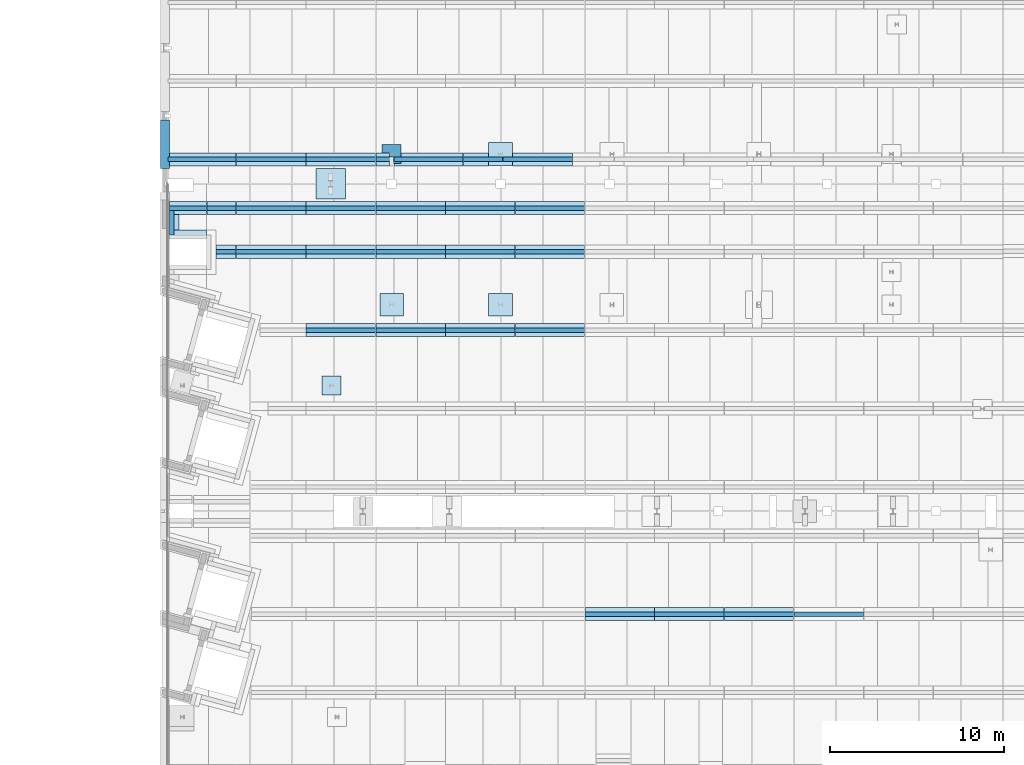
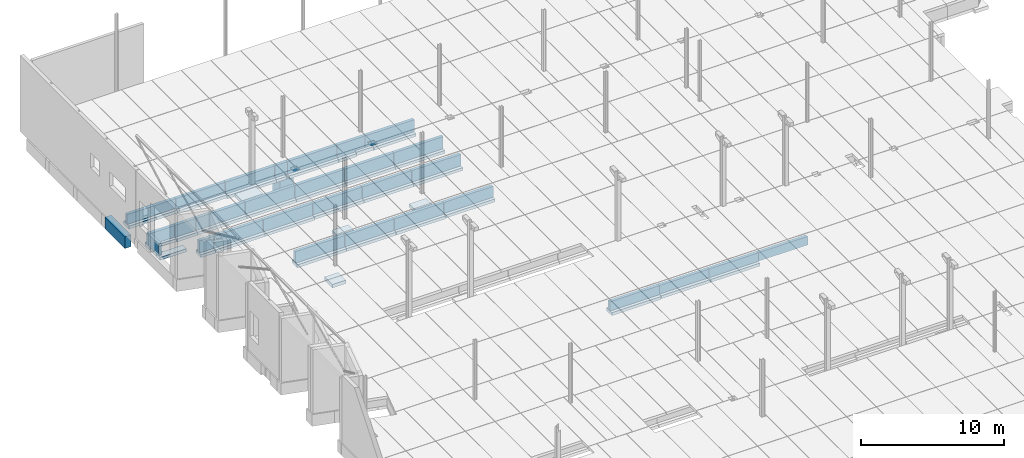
# One storey, part 7 of 59: 65 footings.
"""IFC2X3 building model written with IfcOpenShell, lengths in metres."""

from ifc_helpers import new_model, entity, si_unit, converted_unit, derived_unit, frame, frame_2d, origin, origin_with_axes, place, context, subcontext, project, spatial, polyline, rectangle, extrude, clip, bounded_halfspace, material, element, save


model = new_model("IFC2X3")

# Units and contexts
model_context = context("Model", 3, precision=1e-05, world=origin())
body_context = subcontext(model_context, "Body", "Model", "MODEL_VIEW")
ifc_project = project(units=[si_unit("LENGTHUNIT", "METRE"), si_unit("AREAUNIT", "SQUARE_METRE"), si_unit("VOLUMEUNIT", "CUBIC_METRE"), si_unit("MASSUNIT", "GRAM", prefix="KILO"), converted_unit("PLANEANGLEUNIT", "DEGREE", entity("IfcPlaneAngleMeasure", 0.0174532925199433), si_unit("PLANEANGLEUNIT", "RADIAN"), dimensions=[0, 0, 0, 0, 0, 0, 0]), derived_unit("THERMALTRANSMITTANCEUNIT", [(si_unit("POWERUNIT", "WATT"), 1), (si_unit("THERMODYNAMICTEMPERATUREUNIT", "KELVIN"), -1), (si_unit("LENGTHUNIT", "METRE"), -2)]), derived_unit("VOLUMETRICFLOWRATEUNIT", [(si_unit("LENGTHUNIT", "METRE"), 3), (converted_unit("TIMEUNIT", "hour", entity("IfcTimeMeasure", 3600.0), si_unit("TIMEUNIT", "SECOND"), dimensions=[0, 0, 1, 0, 0, 0, 0]), -1), (si_unit("LENGTHUNIT", "METRE"), -1)])], contexts=[model_context])

# Site, building, storey
site_placement = place(None, origin())
site = spatial("IfcSite", under=ifc_project, at=site_placement, Name="TWP_Speiseverteilzentrum SBW VZ II", CompositionType="ELEMENT")
building_placement = place(site_placement, origin())
building = spatial("IfcBuilding", under=site, at=building_placement, Name="Speiseverteilzentrum SBW VZ II", CompositionType="ELEMENT")
storey_placement = place(building_placement, frame((0.0, 0.0, 1.7307)))
storey = spatial("IfcBuildingStorey", under=building, at=storey_placement, Name="EG_Produktion_FFB", CompositionType="ELEMENT", Elevation=1.7307)

# Footings
ifc_material_1 = material(Name="Stahlbeton")
footing_1_placement = place(storey_placement, frame((18.4999999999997, 58.2629058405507, -1.7)))
element("IfcFooting", 1, at=footing_1_placement, inside=storey, material=ifc_material_1, Name="Stb.-Einzelfundament", ObjectType="COLUMN_FOUNDATION", PredefinedType="USERDEFINED", context=body_context, shape_type="SweptSolid", body=[
    extrude(rectangle(XDim=1.1, YDim=1.1, at=frame_2d((0.55, 0.55), x_axis=(1.0, 0.0))), origin_with_axes(), (0.0, 0.0, 1.0), 0.3),
])
ifc_material_2 = material(Name="Stahlbeton")
footing_2_placement = place(storey_placement, frame((28.075, 62.8074932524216, -1.7)))
element("IfcFooting", 2, at=footing_2_placement, inside=storey, material=ifc_material_2, Name="Stb.-Einzelfundament", ObjectType="COLUMN_FOUNDATION", PredefinedType="USERDEFINED", context=body_context, shape_type="SweptSolid", body=[
    extrude(rectangle(XDim=1.35, YDim=1.3, at=frame_2d((0.675, 0.65), x_axis=(1.0, 0.0))), origin_with_axes(), (0.0, 0.0, 1.0), 0.3),
])
ifc_material_3 = material(Name="Stahlbeton")
footing_3_placement = place(storey_placement, frame((21.825, 62.8074932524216, -1.75)))
element("IfcFooting", 3, at=footing_3_placement, inside=storey, material=ifc_material_3, Name="Stb.-Einzelfundament", ObjectType="COLUMN_FOUNDATION", PredefinedType="USERDEFINED", context=body_context, shape_type="SweptSolid", body=[
    extrude(rectangle(XDim=1.35, YDim=1.3, at=frame_2d((0.675, 0.65), x_axis=(1.0, 0.0))), origin_with_axes(), (0.0, 0.0, 1.0), 0.3),
])
ifc_material_4 = material(Name="Stahlbeton")
footing_4_placement = place(storey_placement, frame((18.1499999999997, 69.5251031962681, -1.7)))
element("IfcFooting", 4, at=footing_4_placement, inside=storey, material=ifc_material_4, Name="Stb.-Einzelfundament", ObjectType="COLUMN_FOUNDATION", PredefinedType="USERDEFINED", context=body_context, shape_type="SweptSolid", body=[
    extrude(rectangle(XDim=1.7, YDim=1.75, at=frame_2d((0.85, 0.875), x_axis=(1.0, 0.0))), origin_with_axes(), (0.0, 0.0, 1.0), 0.3),
])
ifc_material_5 = material(Name="Stahlbeton")
footing_5_placement = place(storey_placement, frame((21.95325, 71.5595015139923, -3.62)))
element("IfcFooting", 5, at=footing_5_placement, inside=storey, material=ifc_material_5, Name="Stb.-Einzelfundament", ObjectType="COLUMN_FOUNDATION", PredefinedType="USERDEFINED", context=body_context, shape_type="SweptSolid", body=[
    extrude(rectangle(XDim=1.1, YDim=1.1, at=frame_2d((0.55, 0.55), x_axis=(1.0, 0.0))), origin_with_axes(), (0.0, 0.0, 1.0), 1.8),
])
ifc_material_6 = material(Name="Stahlbeton")
footing_6_placement = place(storey_placement, frame((28.075, 71.4595015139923, -1.75)))
element("IfcFooting", 6, at=footing_6_placement, inside=storey, material=ifc_material_6, Name="Stb.-Einzelfundament", ObjectType="COLUMN_FOUNDATION", PredefinedType="USERDEFINED", context=body_context, shape_type="Clipping", body=[
    clip(clip(extrude(rectangle(XDim=1.35, YDim=1.3, at=frame_2d((0.675, 0.65), x_axis=(1.0, 0.0))), origin_with_axes(), (0.0, 0.0, 1.0), 0.3), bounded_halfspace(frame((1.08175, 0.340911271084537, 0.25), z_axis=(0.0, 0.0, -1.0), x_axis=(0.0, -1.0, 0.0)), True, origin_with_axes(), polyline([(0.8135, 0.465911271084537), (0.8135, 0.215911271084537), (1.35, 0.215911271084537), (1.35, 0.465911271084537), (0.8135, 0.465911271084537)]))), bounded_halfspace(frame((0.39675, 0.340911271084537, 0.2), z_axis=(0.0, 0.0, -1.0), x_axis=(0.0, -1.0, 0.0)), True, origin_with_axes(), polyline([(0.0, 0.465911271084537), (0.0, 0.215911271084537), (0.793499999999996, 0.215911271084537), (0.793499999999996, 0.465911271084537), (0.0, 0.465911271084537)]))),
])
ifc_material_7 = material(Name="Stahlbeton")
footing_7_placement = place(storey_placement, frame((9.73999999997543, 71.2627373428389, -2.9677), z_axis=(0.0, 0.0, 1.0), x_axis=(0.0, 1.0, 0.0)))
element("IfcFooting", 7, at=footing_7_placement, inside=storey, material=ifc_material_7, Name="Stb.-Streifenfundament", PredefinedType="STRIP_FOOTING", context=body_context, shape_type="SweptSolid", body=[
    extrude(rectangle(XDim=0.5, YDim=1.0, at=frame_2d((0.25, 0.5), x_axis=(1.0, 0.0))), frame((0.0, 0.0, 0.0), z_axis=(1.0, 0.0, 0.0), x_axis=(0.0, 1.0, 0.0)), (0.0, 0.0, 1.0), 2.79129504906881),
])
ifc_material_8 = material(Name="Stahlbetonfertigteil")
footing_8_placement = place(storey_placement, frame((33.5999999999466, 45.5750000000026, -1.25)))
element("IfcFooting", 8, at=footing_8_placement, inside=storey, material=ifc_material_8, Name="Stahlbetonfertigteilfundament", PredefinedType="STRIP_FOOTING", context=body_context, shape_type="SweptSolid", body=[
    extrude(rectangle(XDim=0.25, YDim=0.78, at=frame_2d((0.125, 0.39), x_axis=(1.0, 0.0))), frame((0.0, 0.0, 0.0), z_axis=(1.0, 0.0, 0.0), x_axis=(0.0, 1.0, 0.0)), (0.0, 0.0, 1.0), 3.98),
])
ifc_material_9 = material(Name="Stahlbetonfertigteil")
footing_9_placement = place(storey_placement, frame((33.5999999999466, 45.3250000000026, -1.5)))
element("IfcFooting", 9, at=footing_9_placement, inside=storey, material=ifc_material_9, Name="Stahlbetonfertigteilfundament", PredefinedType="STRIP_FOOTING", context=body_context, shape_type="SweptSolid", body=[
    extrude(rectangle(XDim=0.75, YDim=0.25, at=frame_2d((0.375, 0.125), x_axis=(1.0, 0.0))), frame((0.0, 0.0, 0.0), z_axis=(1.0, 0.0, 0.0), x_axis=(0.0, 1.0, 0.0)), (0.0, 0.0, 1.0), 3.98),
])
ifc_material_10 = material(Name="Stahlbetonfertigteil")
footing_10_placement = place(storey_placement, frame((37.5999999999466, 45.5750000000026, -1.2)))
element("IfcFooting", 10, at=footing_10_placement, inside=storey, material=ifc_material_10, Name="Stahlbetonfertigteilfundament", PredefinedType="STRIP_FOOTING", context=body_context, shape_type="SweptSolid", body=[
    extrude(rectangle(XDim=0.25, YDim=0.73, at=frame_2d((0.125, 0.365), x_axis=(1.0, 0.0))), frame((0.0, 0.0, 0.0), z_axis=(1.0, 0.0, 0.0), x_axis=(0.0, 1.0, 0.0)), (0.0, 0.0, 1.0), 3.98),
])
ifc_material_11 = material(Name="Stahlbetonfertigteil")
footing_11_placement = place(storey_placement, frame((37.5999999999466, 45.3250000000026, -1.45)))
element("IfcFooting", 11, at=footing_11_placement, inside=storey, material=ifc_material_11, Name="Stahlbetonfertigteilfundament", PredefinedType="STRIP_FOOTING", context=body_context, shape_type="SweptSolid", body=[
    extrude(rectangle(XDim=0.75, YDim=0.25, at=frame_2d((0.375, 0.125), x_axis=(1.0, 0.0))), frame((0.0, 0.0, 0.0), z_axis=(1.0, 0.0, 0.0), x_axis=(0.0, 1.0, 0.0)), (0.0, 0.0, 1.0), 3.98),
])
ifc_material_12 = material(Name="Stahlbetonfertigteil")
footing_12_placement = place(storey_placement, frame((21.5999999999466, 61.8750000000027, -1.45)))
element("IfcFooting", 12, at=footing_12_placement, inside=storey, material=ifc_material_12, Name="Stahlbetonfertigteilfundament", PredefinedType="STRIP_FOOTING", context=body_context, shape_type="SweptSolid", body=[
    extrude(rectangle(XDim=0.25, YDim=0.98, at=frame_2d((0.125, 0.49), x_axis=(1.0, 0.0))), frame((0.0, 0.0, 0.0), z_axis=(1.0, 0.0, 0.0), x_axis=(0.0, 1.0, 0.0)), (0.0, 0.0, 1.0), 3.98),
])
ifc_material_13 = material(Name="Stahlbetonfertigteil")
footing_13_placement = place(storey_placement, frame((25.5999999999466, 61.8750000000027, -1.45)))
element("IfcFooting", 13, at=footing_13_placement, inside=storey, material=ifc_material_13, Name="Stahlbetonfertigteilfundament", PredefinedType="STRIP_FOOTING", context=body_context, shape_type="SweptSolid", body=[
    extrude(rectangle(XDim=0.25, YDim=0.98, at=frame_2d((0.125, 0.49), x_axis=(1.0, 0.0))), frame((0.0, 0.0, 0.0), z_axis=(1.0, 0.0, 0.0), x_axis=(0.0, 1.0, 0.0)), (0.0, 0.0, 1.0), 3.98),
])
ifc_material_14 = material(Name="Stahlbetonfertigteil")
footing_14_placement = place(storey_placement, frame((25.5999999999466, 61.6250000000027, -1.7)))
element("IfcFooting", 14, at=footing_14_placement, inside=storey, material=ifc_material_14, Name="Stahlbetonfertigteilfundament", PredefinedType="STRIP_FOOTING", context=body_context, shape_type="SweptSolid", body=[
    extrude(rectangle(XDim=0.75, YDim=0.25, at=frame_2d((0.375, 0.125), x_axis=(1.0, 0.0))), frame((0.0, 0.0, 0.0), z_axis=(1.0, 0.0, 0.0), x_axis=(0.0, 1.0, 0.0)), (0.0, 0.0, 1.0), 3.98),
])
ifc_material_15 = material(Name="Stahlbetonfertigteil")
footing_15_placement = place(storey_placement, frame((21.5999999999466, 61.6250000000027, -1.7)))
element("IfcFooting", 15, at=footing_15_placement, inside=storey, material=ifc_material_15, Name="Stahlbetonfertigteilfundament", PredefinedType="STRIP_FOOTING", context=body_context, shape_type="SweptSolid", body=[
    extrude(rectangle(XDim=0.75, YDim=0.25, at=frame_2d((0.375, 0.125), x_axis=(1.0, 0.0))), frame((0.0, 0.0, 0.0), z_axis=(1.0, 0.0, 0.0), x_axis=(0.0, 1.0, 0.0)), (0.0, 0.0, 1.0), 3.98),
])
ifc_material_16 = material(Name="Stahlbetonfertigteil")
footing_16_placement = place(storey_placement, frame((29.5999999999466, 61.8750000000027, -1.4)))
element("IfcFooting", 16, at=footing_16_placement, inside=storey, material=ifc_material_16, Name="Stahlbetonfertigteilfundament", PredefinedType="STRIP_FOOTING", context=body_context, shape_type="SweptSolid", body=[
    extrude(rectangle(XDim=0.25, YDim=0.93, at=frame_2d((0.125, 0.465), x_axis=(1.0, 0.0))), frame((0.0, 0.0, 0.0), z_axis=(1.0, 0.0, 0.0), x_axis=(0.0, 1.0, 0.0)), (0.0, 0.0, 1.0), 3.98),
])
ifc_material_17 = material(Name="Stahlbetonfertigteil")
footing_17_placement = place(storey_placement, frame((29.5999999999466, 61.6250000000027, -1.65)))
element("IfcFooting", 17, at=footing_17_placement, inside=storey, material=ifc_material_17, Name="Stahlbetonfertigteilfundament", PredefinedType="STRIP_FOOTING", context=body_context, shape_type="SweptSolid", body=[
    extrude(rectangle(XDim=0.75, YDim=0.25, at=frame_2d((0.375, 0.125), x_axis=(1.0, 0.0))), frame((0.0, 0.0, 0.0), z_axis=(1.0, 0.0, 0.0), x_axis=(0.0, 1.0, 0.0)), (0.0, 0.0, 1.0), 3.98),
])
ifc_material_18 = material(Name="Stahlbetonfertigteil")
footing_18_placement = place(storey_placement, frame((29.5999999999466, 66.3752063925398, -1.45)))
element("IfcFooting", 18, at=footing_18_placement, inside=storey, material=ifc_material_18, Name="Stahlbetonfertigteilfundament", PredefinedType="STRIP_FOOTING", context=body_context, shape_type="SweptSolid", body=[
    extrude(rectangle(XDim=0.25, YDim=0.98, at=frame_2d((0.125, 0.49), x_axis=(1.0, 0.0))), frame((0.0, 0.0, 0.0), z_axis=(1.0, 0.0, 0.0), x_axis=(0.0, 1.0, 0.0)), (0.0, 0.0, 1.0), 3.98),
])
ifc_material_19 = material(Name="Stahlbetonfertigteil")
footing_19_placement = place(storey_placement, frame((29.5999999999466, 66.1252063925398, -1.7)))
element("IfcFooting", 19, at=footing_19_placement, inside=storey, material=ifc_material_19, Name="Stahlbetonfertigteilfundament", PredefinedType="STRIP_FOOTING", context=body_context, shape_type="SweptSolid", body=[
    extrude(rectangle(XDim=0.75, YDim=0.25, at=frame_2d((0.375, 0.125), x_axis=(1.0, 0.0))), frame((0.0, 0.0, 0.0), z_axis=(1.0, 0.0, 0.0), x_axis=(0.0, 1.0, 0.0)), (0.0, 0.0, 1.0), 3.98),
])
ifc_material_20 = material(Name="Stahlbetonfertigteil")
footing_20_placement = place(storey_placement, frame((21.5999999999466, 66.3752063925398, -1.45)))
element("IfcFooting", 20, at=footing_20_placement, inside=storey, material=ifc_material_20, Name="Stahlbetonfertigteilfundament", PredefinedType="STRIP_FOOTING", context=body_context, shape_type="SweptSolid", body=[
    extrude(rectangle(XDim=0.25, YDim=0.98, at=frame_2d((0.125, 0.49), x_axis=(1.0, 0.0))), frame((0.0, 0.0, 0.0), z_axis=(1.0, 0.0, 0.0), x_axis=(0.0, 1.0, 0.0)), (0.0, 0.0, 1.0), 3.98),
])
ifc_material_21 = material(Name="Stahlbetonfertigteil")
footing_21_placement = place(storey_placement, frame((25.5999999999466, 66.3752063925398, -1.45)))
element("IfcFooting", 21, at=footing_21_placement, inside=storey, material=ifc_material_21, Name="Stahlbetonfertigteilfundament", PredefinedType="STRIP_FOOTING", context=body_context, shape_type="SweptSolid", body=[
    extrude(rectangle(XDim=0.25, YDim=0.98, at=frame_2d((0.125, 0.49), x_axis=(1.0, 0.0))), frame((0.0, 0.0, 0.0), z_axis=(1.0, 0.0, 0.0), x_axis=(0.0, 1.0, 0.0)), (0.0, 0.0, 1.0), 3.98),
])
ifc_material_22 = material(Name="Stahlbetonfertigteil")
footing_22_placement = place(storey_placement, frame((21.5999999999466, 66.1252063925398, -1.7)))
element("IfcFooting", 22, at=footing_22_placement, inside=storey, material=ifc_material_22, Name="Stahlbetonfertigteilfundament", PredefinedType="STRIP_FOOTING", context=body_context, shape_type="SweptSolid", body=[
    extrude(rectangle(XDim=0.75, YDim=0.25, at=frame_2d((0.375, 0.125), x_axis=(1.0, 0.0))), frame((0.0, 0.0, 0.0), z_axis=(1.0, 0.0, 0.0), x_axis=(0.0, 1.0, 0.0)), (0.0, 0.0, 1.0), 3.98),
])
ifc_material_23 = material(Name="Stahlbetonfertigteil")
footing_23_placement = place(storey_placement, frame((25.5999999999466, 66.1252063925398, -1.7)))
element("IfcFooting", 23, at=footing_23_placement, inside=storey, material=ifc_material_23, Name="Stahlbetonfertigteilfundament", PredefinedType="STRIP_FOOTING", context=body_context, shape_type="SweptSolid", body=[
    extrude(rectangle(XDim=0.75, YDim=0.25, at=frame_2d((0.375, 0.125), x_axis=(1.0, 0.0))), frame((0.0, 0.0, 0.0), z_axis=(1.0, 0.0, 0.0), x_axis=(0.0, 1.0, 0.0)), (0.0, 0.0, 1.0), 3.98),
])
ifc_material_24 = material(Name="Stahlbetonfertigteil")
footing_24_placement = place(storey_placement, frame((13.5999999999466, 71.6754127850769, -1.4)))
element("IfcFooting", 24, at=footing_24_placement, inside=storey, material=ifc_material_24, Name="Stahlbetonfertigteilfundament", PredefinedType="STRIP_FOOTING", context=body_context, shape_type="SweptSolid", body=[
    extrude(rectangle(XDim=0.25, YDim=0.93, at=frame_2d((0.125, 0.465), x_axis=(1.0, 0.0))), frame((0.0, 0.0, 0.0), z_axis=(1.0, 0.0, 0.0), x_axis=(0.0, 1.0, 0.0)), (0.0, 0.0, 1.0), 3.98),
])
ifc_material_25 = material(Name="Stahlbetonfertigteil")
footing_25_placement = place(storey_placement, frame((13.5999999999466, 71.4254127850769, -1.65)))
element("IfcFooting", 25, at=footing_25_placement, inside=storey, material=ifc_material_25, Name="Stahlbetonfertigteilfundament", PredefinedType="STRIP_FOOTING", context=body_context, shape_type="SweptSolid", body=[
    extrude(rectangle(XDim=0.75, YDim=0.25, at=frame_2d((0.375, 0.125), x_axis=(1.0, 0.0))), frame((0.0, 0.0, 0.0), z_axis=(1.0, 0.0, 0.0), x_axis=(0.0, 1.0, 0.0)), (0.0, 0.0, 1.0), 3.98),
])
ifc_material_26 = material(Name="Stahlbetonfertigteil")
footing_26_placement = place(storey_placement, frame((17.5999999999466, 71.6754127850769, -1.5)))
element("IfcFooting", 26, at=footing_26_placement, inside=storey, material=ifc_material_26, Name="Stahlbetonfertigteilfundament", PredefinedType="STRIP_FOOTING", context=body_context, shape_type="SweptSolid", body=[
    extrude(rectangle(XDim=0.25, YDim=1.03, at=frame_2d((0.125, 0.515), x_axis=(1.0, 0.0))), frame((0.0, 0.0, 0.0), z_axis=(1.0, 0.0, 0.0), x_axis=(0.0, 1.0, 0.0)), (0.0, 0.0, 1.0), 3.98),
])
ifc_material_27 = material(Name="Stahlbetonfertigteil")
footing_27_placement = place(storey_placement, frame((17.5999999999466, 71.4254127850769, -1.75)))
element("IfcFooting", 27, at=footing_27_placement, inside=storey, material=ifc_material_27, Name="Stahlbetonfertigteilfundament", PredefinedType="STRIP_FOOTING", context=body_context, shape_type="SweptSolid", body=[
    extrude(rectangle(XDim=0.75, YDim=0.25, at=frame_2d((0.375, 0.125), x_axis=(1.0, 0.0))), frame((0.0, 0.0, 0.0), z_axis=(1.0, 0.0, 0.0), x_axis=(0.0, 1.0, 0.0)), (0.0, 0.0, 1.0), 3.98),
])
ifc_material_28 = material(Name="Stahlbetonfertigteil")
footing_28_placement = place(storey_placement, frame((13.5999999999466, 66.3752063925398, -1.5)))
element("IfcFooting", 28, at=footing_28_placement, inside=storey, material=ifc_material_28, Name="Stahlbetonfertigteilfundament", PredefinedType="STRIP_FOOTING", context=body_context, shape_type="SweptSolid", body=[
    extrude(rectangle(XDim=0.25, YDim=1.03, at=frame_2d((0.125, 0.515), x_axis=(1.0, 0.0))), frame((0.0, 0.0, 0.0), z_axis=(1.0, 0.0, 0.0), x_axis=(0.0, 1.0, 0.0)), (0.0, 0.0, 1.0), 3.98),
])
ifc_material_29 = material(Name="Stahlbetonfertigteil")
footing_29_placement = place(storey_placement, frame((13.5999999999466, 66.1252063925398, -1.75)))
element("IfcFooting", 29, at=footing_29_placement, inside=storey, material=ifc_material_29, Name="Stahlbetonfertigteilfundament", PredefinedType="STRIP_FOOTING", context=body_context, shape_type="SweptSolid", body=[
    extrude(rectangle(XDim=0.75, YDim=0.25, at=frame_2d((0.375, 0.125), x_axis=(1.0, 0.0))), frame((0.0, 0.0, 0.0), z_axis=(1.0, 0.0, 0.0), x_axis=(0.0, 1.0, 0.0)), (0.0, 0.0, 1.0), 3.98),
])
ifc_material_30 = material(Name="Stahlbetonfertigteil")
footing_30_placement = place(storey_placement, frame((25.5999999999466, 68.8754127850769, -1.5)))
element("IfcFooting", 30, at=footing_30_placement, inside=storey, material=ifc_material_30, Name="Stahlbetonfertigteilfundament", PredefinedType="STRIP_FOOTING", context=body_context, shape_type="SweptSolid", body=[
    extrude(rectangle(XDim=0.25, YDim=1.03, at=frame_2d((0.125, 0.515), x_axis=(1.0, 0.0))), frame((0.0, 0.0, 0.0), z_axis=(1.0, 0.0, 0.0), x_axis=(0.0, 1.0, 0.0)), (0.0, 0.0, 1.0), 3.98),
])
ifc_material_31 = material(Name="Stahlbetonfertigteil")
footing_31_placement = place(storey_placement, frame((29.5999999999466, 68.8754127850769, -1.5)))
element("IfcFooting", 31, at=footing_31_placement, inside=storey, material=ifc_material_31, Name="Stahlbetonfertigteilfundament", PredefinedType="STRIP_FOOTING", context=body_context, shape_type="SweptSolid", body=[
    extrude(rectangle(XDim=0.25, YDim=1.03, at=frame_2d((0.125, 0.515), x_axis=(1.0, 0.0))), frame((0.0, 0.0, 0.0), z_axis=(1.0, 0.0, 0.0), x_axis=(0.0, 1.0, 0.0)), (0.0, 0.0, 1.0), 3.98),
])
ifc_material_32 = material(Name="Stahlbetonfertigteil")
footing_32_placement = place(storey_placement, frame((29.5999999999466, 68.6254127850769, -1.75)))
element("IfcFooting", 32, at=footing_32_placement, inside=storey, material=ifc_material_32, Name="Stahlbetonfertigteilfundament", PredefinedType="STRIP_FOOTING", context=body_context, shape_type="SweptSolid", body=[
    extrude(rectangle(XDim=0.75, YDim=0.25, at=frame_2d((0.375, 0.125), x_axis=(1.0, 0.0))), frame((0.0, 0.0, 0.0), z_axis=(1.0, 0.0, 0.0), x_axis=(0.0, 1.0, 0.0)), (0.0, 0.0, 1.0), 3.98),
])
ifc_material_33 = material(Name="Stahlbetonfertigteil")
footing_33_placement = place(storey_placement, frame((25.5999999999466, 68.6254127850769, -1.75)))
element("IfcFooting", 33, at=footing_33_placement, inside=storey, material=ifc_material_33, Name="Stahlbetonfertigteilfundament", PredefinedType="STRIP_FOOTING", context=body_context, shape_type="SweptSolid", body=[
    extrude(rectangle(XDim=0.75, YDim=0.25, at=frame_2d((0.375, 0.125), x_axis=(1.0, 0.0))), frame((0.0, 0.0, 0.0), z_axis=(1.0, 0.0, 0.0), x_axis=(0.0, 1.0, 0.0)), (0.0, 0.0, 1.0), 3.98),
])
ifc_material_34 = material(Name="Stahlbetonfertigteil")
footing_34_placement = place(storey_placement, frame((21.5999999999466, 68.8754127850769, -1.5)))
element("IfcFooting", 34, at=footing_34_placement, inside=storey, material=ifc_material_34, Name="Stahlbetonfertigteilfundament", PredefinedType="STRIP_FOOTING", context=body_context, shape_type="SweptSolid", body=[
    extrude(rectangle(XDim=0.25, YDim=1.03, at=frame_2d((0.125, 0.515), x_axis=(1.0, 0.0))), frame((0.0, 0.0, 0.0), z_axis=(1.0, 0.0, 0.0), x_axis=(0.0, 1.0, 0.0)), (0.0, 0.0, 1.0), 3.98),
])
ifc_material_35 = material(Name="Stahlbetonfertigteil")
footing_35_placement = place(storey_placement, frame((21.5999999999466, 68.6254127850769, -1.75)))
element("IfcFooting", 35, at=footing_35_placement, inside=storey, material=ifc_material_35, Name="Stahlbetonfertigteilfundament", PredefinedType="STRIP_FOOTING", context=body_context, shape_type="SweptSolid", body=[
    extrude(rectangle(XDim=0.75, YDim=0.25, at=frame_2d((0.375, 0.125), x_axis=(1.0, 0.0))), frame((0.0, 0.0, 0.0), z_axis=(1.0, 0.0, 0.0), x_axis=(0.0, 1.0, 0.0)), (0.0, 0.0, 1.0), 3.98),
])
ifc_material_36 = material(Name="Stahlbetonfertigteil")
footing_36_placement = place(storey_placement, frame((13.5999999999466, 68.8754127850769, -1.5)))
element("IfcFooting", 36, at=footing_36_placement, inside=storey, material=ifc_material_36, Name="Stahlbetonfertigteilfundament", PredefinedType="STRIP_FOOTING", context=body_context, shape_type="SweptSolid", body=[
    extrude(rectangle(XDim=0.25, YDim=1.03, at=frame_2d((0.125, 0.515), x_axis=(1.0, 0.0))), frame((0.0, 0.0, 0.0), z_axis=(1.0, 0.0, 0.0), x_axis=(0.0, 1.0, 0.0)), (0.0, 0.0, 1.0), 3.98),
])
ifc_material_37 = material(Name="Stahlbetonfertigteil")
footing_37_placement = place(storey_placement, frame((17.5999999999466, 68.8754127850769, -1.5)))
element("IfcFooting", 37, at=footing_37_placement, inside=storey, material=ifc_material_37, Name="Stahlbetonfertigteilfundament", PredefinedType="STRIP_FOOTING", context=body_context, shape_type="SweptSolid", body=[
    extrude(rectangle(XDim=0.25, YDim=1.03, at=frame_2d((0.125, 0.515), x_axis=(1.0, 0.0))), frame((0.0, 0.0, 0.0), z_axis=(1.0, 0.0, 0.0), x_axis=(0.0, 1.0, 0.0)), (0.0, 0.0, 1.0), 3.98),
])
ifc_material_38 = material(Name="Stahlbetonfertigteil")
footing_38_placement = place(storey_placement, frame((17.5999999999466, 68.6254127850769, -1.75)))
element("IfcFooting", 38, at=footing_38_placement, inside=storey, material=ifc_material_38, Name="Stahlbetonfertigteilfundament", PredefinedType="STRIP_FOOTING", context=body_context, shape_type="SweptSolid", body=[
    extrude(rectangle(XDim=0.75, YDim=0.25, at=frame_2d((0.375, 0.125), x_axis=(1.0, 0.0))), frame((0.0, 0.0, 0.0), z_axis=(1.0, 0.0, 0.0), x_axis=(0.0, 1.0, 0.0)), (0.0, 0.0, 1.0), 3.98),
])
ifc_material_39 = material(Name="Stahlbetonfertigteil")
footing_39_placement = place(storey_placement, frame((13.5999999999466, 68.6254127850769, -1.75)))
element("IfcFooting", 39, at=footing_39_placement, inside=storey, material=ifc_material_39, Name="Stahlbetonfertigteilfundament", PredefinedType="STRIP_FOOTING", context=body_context, shape_type="SweptSolid", body=[
    extrude(rectangle(XDim=0.75, YDim=0.25, at=frame_2d((0.375, 0.125), x_axis=(1.0, 0.0))), frame((0.0, 0.0, 0.0), z_axis=(1.0, 0.0, 0.0), x_axis=(0.0, 1.0, 0.0)), (0.0, 0.0, 1.0), 3.98),
])
ifc_material_40 = material(Name="Stahlbetonfertigteil")
footing_40_placement = place(storey_placement, frame((17.5999999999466, 66.1252063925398, -1.75)))
element("IfcFooting", 40, at=footing_40_placement, inside=storey, material=ifc_material_40, Name="Stahlbetonfertigteilfundament", PredefinedType="STRIP_FOOTING", context=body_context, shape_type="SweptSolid", body=[
    extrude(rectangle(XDim=0.75, YDim=0.25, at=frame_2d((0.375, 0.125), x_axis=(1.0, 0.0))), frame((0.0, 0.0, 0.0), z_axis=(1.0, 0.0, 0.0), x_axis=(0.0, 1.0, 0.0)), (0.0, 0.0, 1.0), 3.98),
])
ifc_material_41 = material(Name="Stahlbetonfertigteil")
footing_41_placement = place(storey_placement, frame((17.5999999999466, 66.3752063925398, -1.5)))
element("IfcFooting", 41, at=footing_41_placement, inside=storey, material=ifc_material_41, Name="Stahlbetonfertigteilfundament", PredefinedType="STRIP_FOOTING", context=body_context, shape_type="SweptSolid", body=[
    extrude(rectangle(XDim=0.25, YDim=1.03, at=frame_2d((0.125, 0.515), x_axis=(1.0, 0.0))), frame((0.0, 0.0, 0.0), z_axis=(1.0, 0.0, 0.0), x_axis=(0.0, 1.0, 0.0)), (0.0, 0.0, 1.0), 3.98),
])
ifc_material_42 = material(Name="Stahlbetonfertigteil")
footing_42_placement = place(storey_placement, frame((17.5999999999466, 61.6250000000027, -1.7)))
element("IfcFooting", 42, at=footing_42_placement, inside=storey, material=ifc_material_42, Name="Stahlbetonfertigteilfundament", PredefinedType="STRIP_FOOTING", context=body_context, shape_type="SweptSolid", body=[
    extrude(rectangle(XDim=0.75, YDim=0.25, at=frame_2d((0.375, 0.125), x_axis=(1.0, 0.0))), frame((0.0, 0.0, 0.0), z_axis=(1.0, 0.0, 0.0), x_axis=(0.0, 1.0, 0.0)), (0.0, 0.0, 1.0), 3.98),
])
ifc_material_43 = material(Name="Stahlbetonfertigteil")
footing_43_placement = place(storey_placement, frame((17.5999999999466, 61.8750000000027, -1.45)))
element("IfcFooting", 43, at=footing_43_placement, inside=storey, material=ifc_material_43, Name="Stahlbetonfertigteilfundament", PredefinedType="STRIP_FOOTING", context=body_context, shape_type="SweptSolid", body=[
    extrude(rectangle(XDim=0.25, YDim=0.98, at=frame_2d((0.125, 0.49), x_axis=(1.0, 0.0))), frame((0.0, 0.0, 0.0), z_axis=(1.0, 0.0, 0.0), x_axis=(0.0, 1.0, 0.0)), (0.0, 0.0, 1.0), 3.98),
])
ifc_material_44 = material(Name="Stahlbetonfertigteil")
footing_44_placement = place(storey_placement, frame((45.5999999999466, 45.5750000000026, -1.2)))
element("IfcFooting", 44, at=footing_44_placement, inside=storey, material=ifc_material_44, Name="Stahlbetonfertigteilfundament", PredefinedType="STRIP_FOOTING", context=body_context, shape_type="SweptSolid", body=[
    extrude(rectangle(XDim=0.25, YDim=0.73, at=frame_2d((0.125, 0.365), x_axis=(1.0, 0.0))), frame((0.0, 0.0, 0.0), z_axis=(1.0, 0.0, 0.0), x_axis=(0.0, 1.0, 0.0)), (0.0, 0.0, 1.0), 3.98),
])
ifc_material_45 = material(Name="Stahlbetonfertigteil")
footing_45_placement = place(storey_placement, frame((41.5999999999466, 45.5750000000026, -1.2)))
element("IfcFooting", 45, at=footing_45_placement, inside=storey, material=ifc_material_45, Name="Stahlbetonfertigteilfundament", PredefinedType="STRIP_FOOTING", context=body_context, shape_type="SweptSolid", body=[
    extrude(rectangle(XDim=0.25, YDim=0.73, at=frame_2d((0.125, 0.365), x_axis=(1.0, 0.0))), frame((0.0, 0.0, 0.0), z_axis=(1.0, 0.0, 0.0), x_axis=(0.0, 1.0, 0.0)), (0.0, 0.0, 1.0), 3.98),
])
ifc_material_46 = material(Name="Stahlbetonfertigteil")
footing_46_placement = place(storey_placement, frame((41.5999999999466, 45.3250000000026, -1.45)))
element("IfcFooting", 46, at=footing_46_placement, inside=storey, material=ifc_material_46, Name="Stahlbetonfertigteilfundament", PredefinedType="STRIP_FOOTING", context=body_context, shape_type="SweptSolid", body=[
    extrude(rectangle(XDim=0.75, YDim=0.25, at=frame_2d((0.375, 0.125), x_axis=(1.0, 0.0))), frame((0.0, 0.0, 0.0), z_axis=(1.0, 0.0, 0.0), x_axis=(0.0, 1.0, 0.0)), (0.0, 0.0, 1.0), 3.98),
])
ifc_material_47 = material(Name="Stahlbetonfertigteil")
footing_47_placement = place(storey_placement, frame((22.62325, 71.4254127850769, -1.8)))
element("IfcFooting", 47, at=footing_47_placement, inside=storey, material=ifc_material_47, Name="Stahlbetonfertigteilfundament", PredefinedType="STRIP_FOOTING", context=body_context, shape_type="SweptSolid", body=[
    extrude(rectangle(XDim=0.75, YDim=0.25, at=frame_2d((0.375, 0.125), x_axis=(1.0, 0.0))), frame((0.0, 0.0, 0.0), z_axis=(1.0, 0.0, 0.0), x_axis=(0.0, 1.0, 0.0)), (0.0, 0.0, 1.0), 3.98),
])
ifc_material_48 = material(Name="Stahlbetonfertigteil")
footing_48_placement = place(storey_placement, frame((22.62325, 71.6754127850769, -1.55)))
element("IfcFooting", 48, at=footing_48_placement, inside=storey, material=ifc_material_48, Name="Stahlbetonfertigteilfundament", PredefinedType="STRIP_FOOTING", context=body_context, shape_type="SweptSolid", body=[
    extrude(rectangle(XDim=0.25, YDim=1.08, at=frame_2d((0.125, 0.54), x_axis=(1.0, 0.0))), frame((0.0, 0.0, 0.0), z_axis=(1.0, 0.0, 0.0), x_axis=(0.0, 1.0, 0.0)), (0.0, 0.0, 1.0), 3.98),
])
ifc_material_49 = material(Name="Stahlbetonfertigteil")
footing_49_placement = place(storey_placement, frame((21.5999999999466, 71.6754127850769, -1.5)))
element("IfcFooting", 49, at=footing_49_placement, inside=storey, material=ifc_material_49, Name="Stahlbetonfertigteilfundament", PredefinedType="STRIP_FOOTING", context=body_context, shape_type="SweptSolid", body=[
    extrude(rectangle(XDim=0.25, YDim=1.03, at=frame_2d((0.125, 0.515), x_axis=(1.0, 0.0))), frame((0.0, 0.0, 0.0), z_axis=(1.0, 0.0, 0.0), x_axis=(0.0, 1.0, 0.0)), (0.0, 0.0, 1.0), 1.00325000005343),
])
ifc_material_50 = material(Name="Stahlbetonfertigteil")
footing_50_placement = place(storey_placement, frame((21.5999999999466, 71.4254127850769, -1.75)))
element("IfcFooting", 50, at=footing_50_placement, inside=storey, material=ifc_material_50, Name="Stahlbetonfertigteilfundament", PredefinedType="STRIP_FOOTING", context=body_context, shape_type="SweptSolid", body=[
    extrude(rectangle(XDim=0.75, YDim=0.25, at=frame_2d((0.375, 0.125), x_axis=(1.0, 0.0))), frame((0.0, 0.0, 0.0), z_axis=(1.0, 0.0, 0.0), x_axis=(0.0, 1.0, 0.0)), (0.0, 0.0, 1.0), 0.783250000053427),
])
ifc_material_51 = material(Name="Stahlbetonfertigteil")
footing_51_placement = place(storey_placement, frame((26.62325, 71.4254127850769, -1.8)))
element("IfcFooting", 51, at=footing_51_placement, inside=storey, material=ifc_material_51, Name="Stahlbetonfertigteilfundament", PredefinedType="STRIP_FOOTING", context=body_context, shape_type="SweptSolid", body=[
    extrude(rectangle(XDim=0.75, YDim=0.25, at=frame_2d((0.375, 0.125), x_axis=(1.0, 0.0))), frame((0.0, 0.0, 0.0), z_axis=(1.0, 0.0, 0.0), x_axis=(0.0, 1.0, 0.0)), (0.0, 0.0, 1.0), 1.43175),
])
ifc_material_52 = material(Name="Stahlbetonfertigteil")
footing_52_placement = place(storey_placement, frame((29.445, 71.4254127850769, -1.75)))
element("IfcFooting", 52, at=footing_52_placement, inside=storey, material=ifc_material_52, Name="Stahlbetonfertigteilfundament", PredefinedType="STRIP_FOOTING", context=body_context, shape_type="SweptSolid", body=[
    extrude(rectangle(XDim=0.75, YDim=0.25, at=frame_2d((0.375, 0.125), x_axis=(1.0, 0.0))), frame((0.0, 0.0, 0.0), z_axis=(1.0, 0.0, 0.0), x_axis=(0.0, 1.0, 0.0)), (0.0, 0.0, 1.0), 3.42350000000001),
])
ifc_material_53 = material(Name="Stahlbetonfertigteil")
footing_53_placement = place(storey_placement, frame((12.4349999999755, 66.1252063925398, -1.75)))
element("IfcFooting", 53, at=footing_53_placement, inside=storey, material=ifc_material_53, Name="Stahlbetonfertigteilfundament", PredefinedType="STRIP_FOOTING", context=body_context, shape_type="SweptSolid", body=[
    extrude(rectangle(XDim=0.75, YDim=0.25, at=frame_2d((0.375, 0.125), x_axis=(1.0, 0.0))), frame((0.0, 0.0, 0.0), z_axis=(1.0, 0.0, 0.0), x_axis=(0.0, 1.0, 0.0)), (0.0, 0.0, 1.0), 1.14499999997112),
])
ifc_material_54 = material(Name="Stahlbetonfertigteil")
footing_54_placement = place(storey_placement, frame((12.4349999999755, 66.3752063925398, -1.5)))
element("IfcFooting", 54, at=footing_54_placement, inside=storey, material=ifc_material_54, Name="Stahlbetonfertigteilfundament", PredefinedType="STRIP_FOOTING", context=body_context, shape_type="SweptSolid", body=[
    extrude(rectangle(XDim=0.25, YDim=1.03, at=frame_2d((0.125, 0.515), x_axis=(1.0, 0.0))), frame((0.0, 0.0, 0.0), z_axis=(1.0, 0.0, 0.0), x_axis=(0.0, 1.0, 0.0)), (0.0, 0.0, 1.0), 1.14499999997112),
])
ifc_material_55 = material(Name="Stahlbetonfertigteil")
footing_55_placement = place(storey_placement, frame((26.62325, 71.6754127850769, -1.55)))
element("IfcFooting", 55, at=footing_55_placement, inside=storey, material=ifc_material_55, Name="Stahlbetonfertigteilfundament", PredefinedType="STRIP_FOOTING", context=body_context, shape_type="SweptSolid", body=[
    extrude(rectangle(XDim=0.25, YDim=1.08, at=frame_2d((0.125, 0.54), x_axis=(1.0, 0.0))), frame((0.0, 0.0, 0.0), z_axis=(1.0, 0.0, 0.0), x_axis=(0.0, 1.0, 0.0)), (0.0, 0.0, 1.0), 2.24525000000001),
])
ifc_material_56 = material(Name="Stahlbetonfertigteil")
footing_56_placement = place(storey_placement, frame((28.8885, 71.6754127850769, -1.5)))
element("IfcFooting", 56, at=footing_56_placement, inside=storey, material=ifc_material_56, Name="Stahlbetonfertigteilfundament", PredefinedType="STRIP_FOOTING", context=body_context, shape_type="SweptSolid", body=[
    extrude(rectangle(XDim=0.25, YDim=1.03, at=frame_2d((0.125, 0.515), x_axis=(1.0, 0.0))), frame((0.0, 0.0, 0.0), z_axis=(1.0, 0.0, 0.0), x_axis=(0.0, 1.0, 0.0)), (0.0, 0.0, 1.0), 3.98),
])
ifc_material_57 = material(Name="Stahlbetonfertigteil")
footing_57_placement = place(storey_placement, frame((9.65999999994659, 71.4254127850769, -1.55)))
element("IfcFooting", 57, at=footing_57_placement, inside=storey, material=ifc_material_57, Name="Stahlbetonfertigteilfundament", PredefinedType="STRIP_FOOTING", context=body_context, shape_type="SweptSolid", body=[
    extrude(rectangle(XDim=0.75, YDim=0.25, at=frame_2d((0.375, 0.125), x_axis=(1.0, 0.0))), frame((0.0, 0.0, 0.0), z_axis=(1.0, 0.0, 0.0), x_axis=(0.0, 1.0, 0.0)), (0.0, 0.0, 1.0), 3.92),
])
ifc_material_58 = material(Name="Stahlbetonfertigteil")
footing_58_placement = place(storey_placement, frame((9.65999999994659, 71.6754127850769, -1.3)))
element("IfcFooting", 58, at=footing_58_placement, inside=storey, material=ifc_material_58, Name="Stahlbetonfertigteilfundament", PredefinedType="STRIP_FOOTING", context=body_context, shape_type="SweptSolid", body=[
    extrude(rectangle(XDim=0.25, YDim=0.83, at=frame_2d((0.125, 0.415), x_axis=(1.0, 0.0))), frame((0.0, 0.0, 0.0), z_axis=(1.0, 0.0, 0.0), x_axis=(0.0, 1.0, 0.0)), (0.0, 0.0, 1.0), 3.92),
])
ifc_material_59 = material(Name="Stahlbetonfertigteil")
footing_59_placement = place(storey_placement, frame((11.9099999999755, 68.8754127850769, -1.5)))
element("IfcFooting", 59, at=footing_59_placement, inside=storey, material=ifc_material_59, Name="Stahlbetonfertigteilfundament", PredefinedType="STRIP_FOOTING", context=body_context, shape_type="SweptSolid", body=[
    extrude(rectangle(XDim=0.25, YDim=1.03, at=frame_2d((0.125, 0.515), x_axis=(1.0, 0.0))), frame((0.0, 0.0, 0.0), z_axis=(1.0, 0.0, 0.0), x_axis=(0.0, 1.0, 0.0)), (0.0, 0.0, 1.0), 1.66999999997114),
])
ifc_material_60 = material(Name="Stahlbetonfertigteil")
footing_60_placement = place(storey_placement, frame((11.9099999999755, 68.6254127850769, -1.75)))
element("IfcFooting", 60, at=footing_60_placement, inside=storey, material=ifc_material_60, Name="Stahlbetonfertigteilfundament", PredefinedType="STRIP_FOOTING", context=body_context, shape_type="SweptSolid", body=[
    extrude(rectangle(XDim=0.75, YDim=0.25, at=frame_2d((0.375, 0.125), x_axis=(1.0, 0.0))), frame((0.0, 0.0, 0.0), z_axis=(1.0, 0.0, 0.0), x_axis=(0.0, 1.0, 0.0)), (0.0, 0.0, 1.0), 1.66999999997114),
])
ifc_material_61 = material(Name="Stahlbeton")
footing_61_placement = place(storey_placement, frame((9.75999999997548, 67.2162960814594, -1.7)))
element("IfcFooting", 61, at=footing_61_placement, inside=storey, material=ifc_material_61, Name="Stb.-Fundament", PredefinedType="STRIP_FOOTING", context=body_context, shape_type="SweptSolid", body=[
    extrude(rectangle(XDim=0.525000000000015, YDim=0.25, at=frame_2d((0.262500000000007, 0.125), x_axis=(1.0, 0.0))), frame((0.0, 0.0, 0.0), z_axis=(1.0, 0.0, 0.0), x_axis=(0.0, 1.0, 0.0)), (0.0, 0.0, 1.0), 2.12999999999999),
])
ifc_material_62 = material(Name="Stahlbeton")
footing_62_placement = place(storey_placement, frame((9.75999999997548, 68.8754127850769, -1.45)))
element("IfcFooting", 62, at=footing_62_placement, inside=storey, material=ifc_material_62, Name="Stb.-Fundament", PredefinedType="STRIP_FOOTING", context=body_context, shape_type="SweptSolid", body=[
    extrude(rectangle(XDim=0.25, YDim=0.98, at=frame_2d((0.125, 0.49), x_axis=(1.0, 0.0))), frame((0.0, 0.0, 0.0), z_axis=(1.0, 0.0, 0.0), x_axis=(0.0, 1.0, 0.0)), (0.0, 0.0, 1.0), 2.12999999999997),
])
ifc_material_63 = material(Name="Stahlbeton")
footing_63_placement = place(storey_placement, frame((10.2849999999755, 67.7412960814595, -1.7), z_axis=(0.0, 0.0, 1.0), x_axis=(0.0, 1.0, 0.0)))
element("IfcFooting", 63, at=footing_63_placement, inside=storey, material=ifc_material_63, Name="Stb.-Fundament", PredefinedType="STRIP_FOOTING", context=body_context, shape_type="SweptSolid", body=[
    extrude(rectangle(XDim=0.525000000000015, YDim=0.25, at=frame_2d((0.262500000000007, 0.125), x_axis=(1.0, 0.0))), frame((0.0, 0.0, 0.0), z_axis=(1.0, 0.0, 0.0), x_axis=(0.0, 1.0, 0.0)), (0.0, 0.0, 1.0), 0.884116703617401),
])
ifc_material_64 = material(Name="Stahlbeton")
footing_64_placement = place(storey_placement, frame((10.0099999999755, 67.4662960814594, -1.45), z_axis=(0.0, 0.0, 1.0), x_axis=(0.0, 1.0, 0.0)))
element("IfcFooting", 64, at=footing_64_placement, inside=storey, material=ifc_material_64, Name="Stb.-Fundament", PredefinedType="STRIP_FOOTING", context=body_context, shape_type="SweptSolid", body=[
    extrude(rectangle(XDim=0.249999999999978, YDim=0.98, at=frame_2d((0.124999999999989, 0.49), x_axis=(1.0, 0.0))), frame((0.0, 0.0, 0.0), z_axis=(1.0, 0.0, 0.0), x_axis=(0.0, 1.0, 0.0)), (0.0, 0.0, 1.0), 1.40911670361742),
])
ifc_material_65 = material(Name="Stahlbeton")
footing_65_placement = place(storey_placement, frame((9.75999999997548, 68.6254127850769, -1.7)))
element("IfcFooting", 65, at=footing_65_placement, inside=storey, material=ifc_material_65, Name="Stb.-Fundament", PredefinedType="STRIP_FOOTING", context=body_context, shape_type="SweptSolid", body=[
    extrude(rectangle(XDim=0.75, YDim=0.25, at=frame_2d((0.375, 0.125), x_axis=(1.0, 0.0))), frame((0.0, 0.0, 0.0), z_axis=(1.0, 0.0, 0.0), x_axis=(0.0, 1.0, 0.0)), (0.0, 0.0, 1.0), 2.12999999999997),
])

save(model, "model.ifc")
